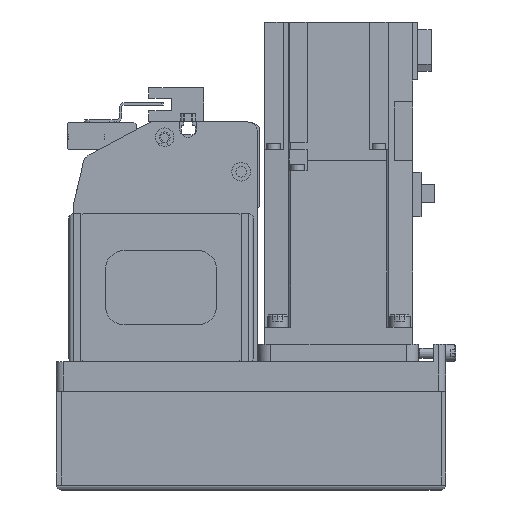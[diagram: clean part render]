
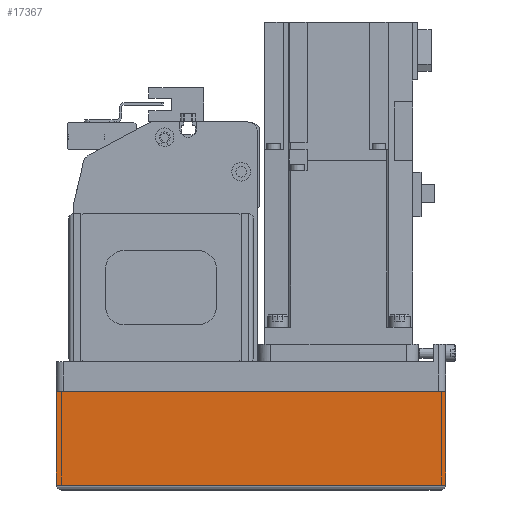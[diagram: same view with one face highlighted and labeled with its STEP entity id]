
A CAD part, left-side view. The second image highlights one B-rep face of the part: STEP entity #17367.
In plain terms, the highlighted planar face has unit normal (-1, 0, 0) as drawn and (0, 1, 0) by its records, which use the part's own axes.
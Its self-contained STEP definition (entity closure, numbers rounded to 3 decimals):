
#2730=ORIENTED_EDGE('',*,*,#6965,.F.);
#2731=ORIENTED_EDGE('',*,*,#7034,.F.);
#2732=ORIENTED_EDGE('',*,*,#6982,.T.);
#2733=ORIENTED_EDGE('',*,*,#6957,.T.);
#6957=EDGE_CURVE('',#9261,#9260,#11030,.T.);
#6965=EDGE_CURVE('',#9268,#9260,#11038,.T.);
#6982=EDGE_CURVE('',#9278,#9261,#11051,.T.);
#7034=EDGE_CURVE('',#9278,#9268,#11080,.T.);
#9260=VERTEX_POINT('',#26676);
#9261=VERTEX_POINT('',#26678);
#9268=VERTEX_POINT('',#26695);
#9278=VERTEX_POINT('',#26726);
#11030=LINE('',#26677,#12623);
#11038=LINE('',#26694,#12631);
#11051=LINE('',#26725,#12644);
#11080=LINE('',#26820,#12673);
#12623=VECTOR('',#21360,1000.);
#12631=VECTOR('',#21372,1000.);
#12644=VECTOR('',#21401,1000.);
#12673=VECTOR('',#21518,1000.);
#14093=EDGE_LOOP('',(#2730,#2731,#2732,#2733));
#15448=FACE_BOUND('',#14093,.T.);
#16632=PLANE('',#18640);
#17367=ADVANCED_FACE('',(#15448),#16632,.T.);
#18640=AXIS2_PLACEMENT_3D('',#26819,#21516,#21517);
#21360=DIRECTION('',(1.,0.,0.));
#21372=DIRECTION('',(0.,0.,1.));
#21401=DIRECTION('',(0.,0.,1.));
#21516=DIRECTION('',(0.,1.,0.));
#21517=DIRECTION('',(0.,0.,1.));
#21518=DIRECTION('',(1.,0.,0.));
#26676=CARTESIAN_POINT('',(0.,39.,-12.1));
#26677=CARTESIAN_POINT('',(-158.,39.,-12.1));
#26678=CARTESIAN_POINT('',(-158.,39.,-12.1));
#26694=CARTESIAN_POINT('',(0.,39.,-50.));
#26695=CARTESIAN_POINT('',(0.,39.,-50.));
#26725=CARTESIAN_POINT('',(-158.,39.,-50.));
#26726=CARTESIAN_POINT('',(-158.,39.,-50.));
#26819=CARTESIAN_POINT('',(-158.,39.,-50.));
#26820=CARTESIAN_POINT('',(-158.,39.,-50.));
